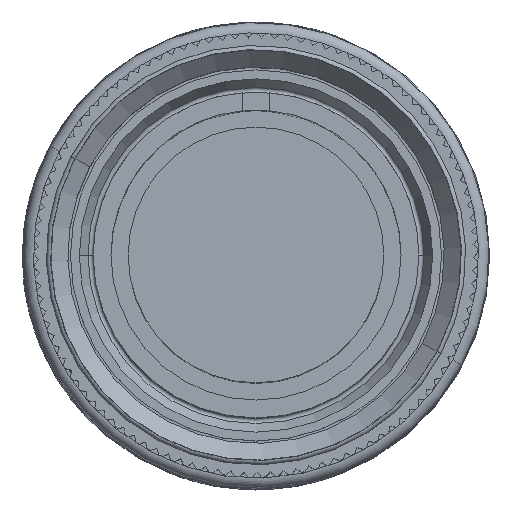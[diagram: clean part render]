
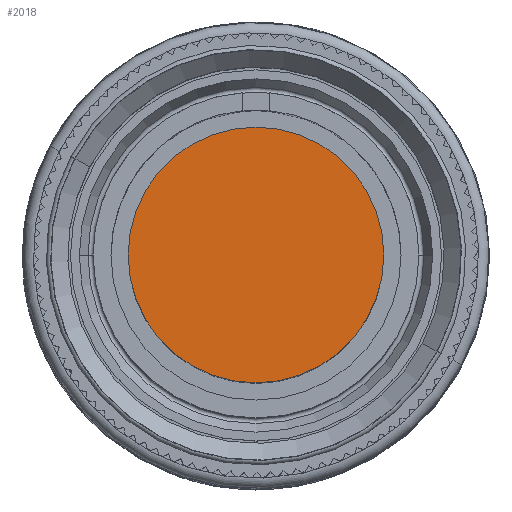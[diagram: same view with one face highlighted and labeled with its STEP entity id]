
A CAD part, top view. The second image highlights one B-rep face of the part: STEP entity #2018.
In plain terms, the highlighted planar face has unit normal (0, 0, 1).
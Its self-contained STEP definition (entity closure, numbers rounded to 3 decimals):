
#537 = VERTEX_POINT ( 'NONE', #24444 ) ;
#2018 = ADVANCED_FACE ( 'NONE', ( #2984 ), #10437, .F. ) ;
#2984 = FACE_OUTER_BOUND ( 'NONE', #17895, .T. ) ;
#4775 = EDGE_CURVE ( 'NONE', #16633, #537, #26789, .T. ) ;
#5287 = ORIENTED_EDGE ( 'NONE', *, *, #4775, .F. ) ;
#6244 = DIRECTION ( 'NONE',  ( 0., 0., -1. ) ) ;
#7819 = CARTESIAN_POINT ( 'NONE',  ( -16.615, 6.677, 46.44 ) ) ;
#10437 = PLANE ( 'NONE',  #21781 ) ;
#11239 = DIRECTION ( 'NONE',  ( 0., 1., 0. ) ) ;
#11609 = DIRECTION ( 'NONE',  ( 0., 0., -1. ) ) ;
#12057 = CIRCLE ( 'NONE', #24902, 9.3 ) ;
#14066 = AXIS2_PLACEMENT_3D ( 'NONE', #18767, #11609, #25725 ) ;
#16633 = VERTEX_POINT ( 'NONE', #20258 ) ;
#17137 = ORIENTED_EDGE ( 'NONE', *, *, #20347, .F. ) ;
#17895 = EDGE_LOOP ( 'NONE', ( #5287, #17137 ) ) ;
#18767 = CARTESIAN_POINT ( 'NONE',  ( -25.915, 6.677, 46.44 ) ) ;
#20258 = CARTESIAN_POINT ( 'NONE',  ( -25.915, 15.977, 46.44 ) ) ;
#20347 = EDGE_CURVE ( 'NONE', #537, #16633, #12057, .T. ) ;
#21781 = AXIS2_PLACEMENT_3D ( 'NONE', #7819, #23998, #26437 ) ;
#22551 = CARTESIAN_POINT ( 'NONE',  ( -25.915, 6.677, 46.44 ) ) ;
#23998 = DIRECTION ( 'NONE',  ( 0., 0., -1. ) ) ;
#24444 = CARTESIAN_POINT ( 'NONE',  ( -25.915, -2.623, 46.44 ) ) ;
#24902 = AXIS2_PLACEMENT_3D ( 'NONE', #22551, #6244, #11239 ) ;
#25725 = DIRECTION ( 'NONE',  ( 0., 1., 0. ) ) ;
#26437 = DIRECTION ( 'NONE',  ( 0., 1., 0. ) ) ;
#26789 = CIRCLE ( 'NONE', #14066, 9.3 ) ;
